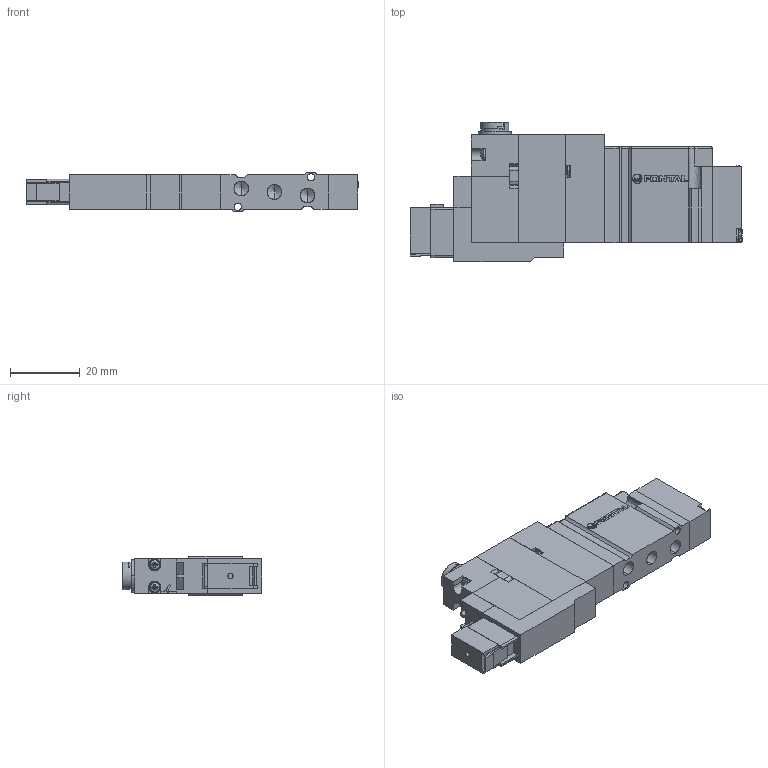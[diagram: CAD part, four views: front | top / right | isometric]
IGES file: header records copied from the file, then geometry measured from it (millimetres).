
Start section: SolidWorks IGES file using analytic representation for surfaces
Global section: file name: D:\Custom\3D繪製\ADEX\A05F\A05FS25#-#-#-E.IGS,1; native system: 5HSolidWorks 2014; preprocessor: SolidWorks 2014; author: Chieh_Lu; date: 150809.154343; units: millimetre
Bounding box: 95.3 x 40.1 x 11.4 mm (x, y, z)
Surface area: 14757.7 mm2 (no closed solid volume)
Topology: 0 solids, 0 shells, 699 faces, 5666 edges, 5638 vertices
Faces by surface type: bspline 474, revolution 225
